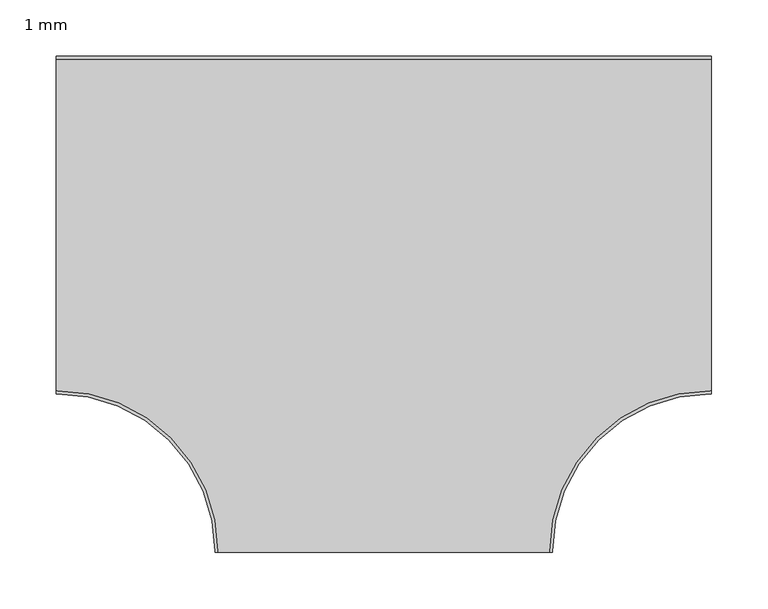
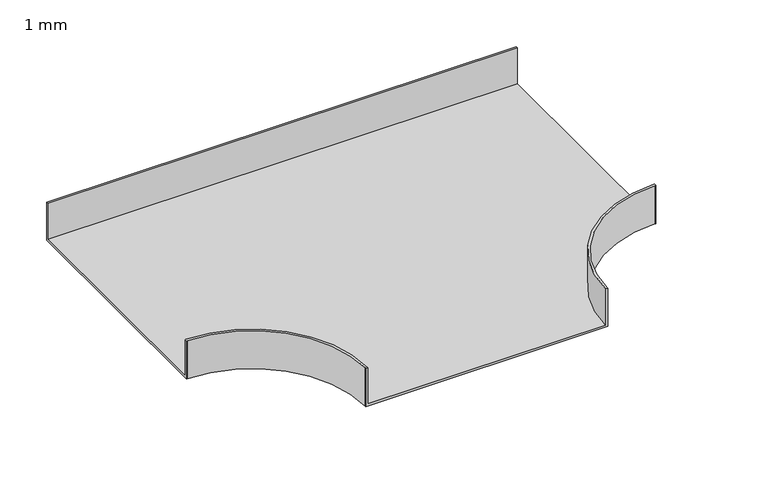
"""IFC4 building model written with IfcOpenShell, lengths in millimetres: cable carrier fitting geometry, BAKS_Trójnik_koryta (R140) : 1 mm."""

from ifc_helpers import new_model, si_unit, frame, origin, place, context, project, spatial, polyline, circle_curve, source, transform, mapped, element, save
from ifc_brep_helpers import plane_surface, cylinder_surface, revolved_surface, advanced_brep


def cable_carrier_fitting_1_mm_1f39f8d9(model_context):
    return source(origin(), model_context, "Body", "AdvancedBrep", [
        advanced_brep(
        [(-150.0, -290.0, 25.0), (-150.0, -291.0, 25.0), (-147.46, -291.0, 25.0), (-147.46, -290.0, 25.0), (-290.0, -147.46, 25.0), (-291.0, -147.46, 25.0), (-291.0, -150.0, 25.0), (-290.0, -150.0, 25.0), (150.0, -290.0, 25.0), (290.0, -150.0, 25.0), (291.0, -150.0, 25.0), (291.0, -147.46, 25.0), (290.0, -147.46, 25.0), (147.46, -290.0, 25.0), (147.46, -291.0, 25.0), (150.0, -291.0, 25.0), (291.0, 150.0, 25.0), (-291.0, 150.0, 25.0), (-291.0, 147.46, 25.0), (291.0, 147.46, 25.0), (-150.0, -290.0, -25.0), (-290.0, -150.0, -25.0), (-291.0, -150.0, -25.0), (-291.0, 150.0, -25.0), (291.0, 150.0, -25.0), (291.0, -150.0, -25.0), (290.0, -150.0, -25.0), (150.0, -290.0, -25.0), (150.0, -291.0, -25.0), (-150.0, -291.0, -25.0), (-150.0, -290.0, -22.46), (147.46, -291.0, -22.46), (-147.46, -291.0, -22.46), (-147.46, -290.0, -22.46), (-290.0, -147.46, -22.46), (-291.0, -147.46, -22.46), (-291.0, 147.46, -22.46), (-290.0, -150.0, -22.46), (150.0, -290.0, -22.46), (290.0, -150.0, -22.46), (291.0, 147.46, -22.46), (291.0, -147.46, -22.46), (290.0, -147.46, -22.46), (147.46, -290.0, -22.46)],
        [
            (0, 1),
            (1, 2),
            (2, 3),
            (3, 4, circle_curve(frame((-290.0, -290.0, 25.0), z_axis=(0.0, 0.0, 1.0), x_axis=(1.0, 0.0, 0.0)), 142.54)),
            (4, 5),
            (5, 6),
            (6, 7),
            (7, 0, circle_curve(frame((-290.0, -290.0, 25.0), z_axis=(0.0, 0.0, -1.0), x_axis=(1.0, 0.0, 0.0)), 140.0)),
            (8, 9, circle_curve(frame((290.0, -290.0, 25.0), z_axis=(0.0, 0.0, -1.0), x_axis=(1.0, 0.0, 0.0)), 140.0)),
            (9, 10),
            (10, 11),
            (11, 12),
            (12, 13, circle_curve(frame((290.0, -290.0, 25.0), z_axis=(0.0, 0.0, 1.0), x_axis=(1.0, 0.0, 0.0)), 142.54)),
            (13, 14),
            (14, 15),
            (15, 8),
            (16, 17),
            (17, 18),
            (18, 19),
            (19, 16),
            (20, 21, circle_curve(frame((-290.0, -290.0, -25.0), z_axis=(0.0, 0.0, 1.0), x_axis=(1.0, 0.0, 0.0)), 140.0)),
            (21, 22),
            (22, 23),
            (23, 24),
            (24, 25),
            (25, 26),
            (26, 27, circle_curve(frame((290.0, -290.0, -25.0), z_axis=(0.0, 0.0, 1.0), x_axis=(1.0, 0.0, 0.0)), 140.0)),
            (27, 28),
            (28, 29),
            (29, 20),
            (29, 1),
            (0, 30),
            (30, 20),
            (28, 15),
            (14, 31),
            (31, 32),
            (32, 2),
            (32, 33),
            (33, 3),
            (33, 34, circle_curve(frame((-290.0, -290.0, -22.46), z_axis=(0.0, 0.0, 1.0), x_axis=(1.0, 0.0, 0.0)), 142.54)),
            (34, 4),
            (34, 35),
            (35, 5),
            (35, 36),
            (36, 18),
            (17, 23),
            (22, 6),
            (21, 37),
            (37, 7),
            (8, 38),
            (38, 27),
            (26, 39),
            (39, 9),
            (25, 10),
            (24, 16),
            (19, 40),
            (40, 41),
            (41, 11),
            (41, 42),
            (42, 12),
            (42, 43, circle_curve(frame((290.0, -290.0, -22.46), z_axis=(0.0, 0.0, 1.0), x_axis=(1.0, 0.0, 0.0)), 142.54)),
            (43, 13),
            (43, 31),
            (36, 40),
        ],
        [
            plane_surface(frame((-150.0, -290.0, 25.0), z_axis=(0.0, 0.0, 1.0), x_axis=(0.0, -1.0, 0.0))),
            plane_surface(frame((-150.0, -290.0, -25.0), z_axis=(0.0, 0.0, -1.0), x_axis=(0.0, 1.0, 0.0))),
            plane_surface(frame((-150.0, -290.0, 25.0), z_axis=(-1.0, 0.0, 0.0), x_axis=(0.0, 0.0, -1.0))),
            plane_surface(frame((-150.0, -291.0, 25.0), z_axis=(0.0, -1.0, 0.0), x_axis=(0.0, 0.0, -1.0))),
            plane_surface(frame((-147.46, -291.0, 25.0), z_axis=(1.0, 0.0, 0.0), x_axis=(0.0, 0.0, -1.0))),
            cylinder_surface(frame((-290.0, -290.0, -25.0), z_axis=(0.0, 0.0, 1.0), x_axis=(1.0, 0.0, 0.0)), 142.54),
            plane_surface(frame((-290.0, -147.46, 25.0), z_axis=(0.0, 1.0, 0.0), x_axis=(0.0, 0.0, -1.0))),
            plane_surface(frame((-291.0, -147.46, 25.0), z_axis=(-1.0, 0.0, 0.0), x_axis=(0.0, 0.0, -1.0))),
            plane_surface(frame((-291.0, -150.0, 25.0), z_axis=(2.7240876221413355e-12, -1.0, 0.0), x_axis=(0.0, 0.0, -1.0))),
            revolved_surface(polyline([(-150.0, -290.0, -25.0), (-150.0, -290.0, 25.0)]), (-290.0, -290.0, -25.0), (0.0, 0.0, -1.0)),
            revolved_surface(polyline([(430.0, -290.0, -25.0), (430.0, -290.0, 25.0)]), (290.0, -290.0, 0.0), (0.0, 0.0, -1.0)),
            plane_surface(frame((290.0, -150.0, 25.0), z_axis=(-2.724087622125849e-12, -1.0, 0.0), x_axis=(0.0, 0.0, -1.0))),
            plane_surface(frame((291.0, -150.0, 25.0), z_axis=(1.0, 0.0, 0.0), x_axis=(0.0, 0.0, -1.0))),
            plane_surface(frame((291.0, -147.46, 25.0), z_axis=(0.0, 1.0, 0.0), x_axis=(0.0, 0.0, -1.0))),
            cylinder_surface(frame((290.0, -290.0, 0.0), z_axis=(0.0, 0.0, 1.0), x_axis=(1.0, 0.0, 0.0)), 142.54),
            plane_surface(frame((147.46, -290.0, 25.0), z_axis=(-1.0, 0.0, 0.0), x_axis=(0.0, 0.0, -1.0))),
            plane_surface(frame((150.0, -291.0, 25.0), z_axis=(1.0, 0.0, 0.0), x_axis=(0.0, 0.0, -1.0))),
            plane_surface(frame((291.0, 150.0, 25.0), z_axis=(0.0, 1.0, 0.0), x_axis=(0.0, 0.0, -1.0))),
            plane_surface(frame((-291.0, 147.46, 25.0), z_axis=(0.0, -1.0, 0.0), x_axis=(0.0, 0.0, -1.0))),
            plane_surface(frame((-150.0, -290.0, -22.46), z_axis=(0.0, 0.0, 1.0), x_axis=(0.0, -1.0, 0.0))),
        ],
        [
            (0, [[1, 2, 3, 4, 5, 6, 7, 8]]),
            (0, [[9, 10, 11, 12, 13, 14, 15, 16]]),
            (0, [[17, 18, 19, 20]]),
            (1, [[21, 22, 23, 24, 25, 26, 27, 28, 29, 30]]),
            (2, [[31, -1, 32, 33, -30]]),
            (3, [[-2, -31, -29, 34, -15, 35, 36, 37]]),
            (4, [[-3, -37, 38, 39]]),
            (5, [[-4, -39, 40, 41]]),
            (6, [[-5, -41, 42, 43]]),
            (7, [[-6, -43, 44, 45, -18, 46, -23, 47]]),
            (8, [[-7, -47, -22, 48, 49]]),
            (9, [[-8, -49, -48, -21, -33, -32]]),
            (10, [[-9, 50, 51, -27, 52, 53]]),
            (11, [[54, -10, -53, -52, -26]]),
            (12, [[-11, -54, -25, 55, -20, 56, 57, 58]]),
            (13, [[-12, -58, 59, 60]]),
            (14, [[-13, -60, 61, 62]]),
            (15, [[-14, -62, 63, -35]]),
            (16, [[-16, -34, -28, -51, -50]]),
            (17, [[-46, -17, -55, -24]]),
            (18, [[-19, -45, 64, -56]]),
            (19, [[-36, -63, -61, -59, -57, -64, -44, -42, -40, -38]]),
        ],
    ),
    ])


if __name__ == "__main__":
    model = new_model("IFC4")
    model_context = context("Model", 3, world=origin())
    ifc_project = project(units=[si_unit("LENGTHUNIT", "METRE", prefix="MILLI")], contexts=[model_context])
    site = spatial("IfcSite", under=ifc_project)
    building = spatial("IfcBuilding", under=site)
    placement = place(None, origin())
    cable_carrier_fitting_1_mm_shape = cable_carrier_fitting_1_mm_1f39f8d9(model_context)
    element("IfcCableCarrierFitting", 1, ObjectType="BAKS_Trójnik_koryta (R140) : 1 mm", at=placement, inside=building, context=model_context, shape_type="MappedRepresentation", body=[
        mapped(cable_carrier_fitting_1_mm_shape, transform((0.0, 0.0, 0.0), x_axis=(1.0, 0.0, 0.0), y_axis=(0.0, 1.0, 0.0), z_axis=(0.0, 0.0, 1.0))),
    ])
    save(model, "model.ifc")
